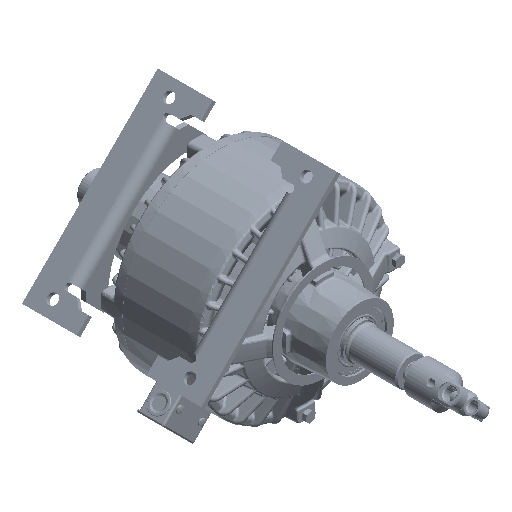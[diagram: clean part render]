
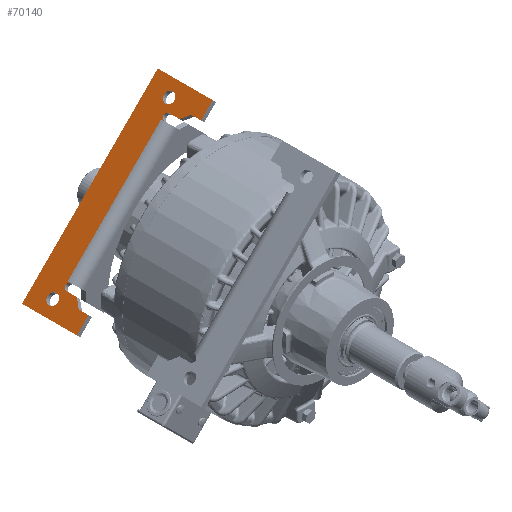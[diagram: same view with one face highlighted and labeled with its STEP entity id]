
A CAD part, isometric view. The second image highlights one B-rep face of the part: STEP entity #70140.
In plain terms, the highlighted planar face has unit normal (-0.707, 0, 0.707).
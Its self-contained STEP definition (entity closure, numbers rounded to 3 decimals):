
#2822=FACE_BOUND('',#8943,.T.);
#2823=FACE_BOUND('',#8944,.T.);
#4285=FACE_OUTER_BOUND('',#8942,.T.);
#8942=EDGE_LOOP('',(#47094,#47095,#47096,#47097,#47098,#47099,#47100,#47101,
#47102,#47103,#47104,#47105,#47106,#47107,#47108,#47109));
#8943=EDGE_LOOP('',(#47110));
#8944=EDGE_LOOP('',(#47111));
#17255=CIRCLE('',#75001,0.281);
#17257=CIRCLE('',#75004,0.18);
#17260=CIRCLE('',#75009,0.281);
#17262=CIRCLE('',#75012,0.18);
#21922=LINE('',#102694,#25059);
#21923=LINE('',#102699,#25060);
#21924=LINE('',#102701,#25061);
#21925=LINE('',#102703,#25062);
#21926=LINE('',#102705,#25063);
#21927=LINE('',#102707,#25064);
#21928=LINE('',#102708,#25065);
#21929=LINE('',#102710,#25066);
#21930=LINE('',#102711,#25067);
#21931=LINE('',#102713,#25068);
#21932=LINE('',#102715,#25069);
#21933=LINE('',#102717,#25070);
#21934=LINE('',#102719,#25071);
#21935=LINE('',#102720,#25072);
#25059=VECTOR('',#83510,39.37);
#25060=VECTOR('',#83515,39.37);
#25061=VECTOR('',#83516,39.37);
#25062=VECTOR('',#83517,39.37);
#25063=VECTOR('',#83518,39.37);
#25064=VECTOR('',#83519,39.37);
#25065=VECTOR('',#83520,39.37);
#25066=VECTOR('',#83521,39.37);
#25067=VECTOR('',#83522,39.37);
#25068=VECTOR('',#83523,39.37);
#25069=VECTOR('',#83524,39.37);
#25070=VECTOR('',#83525,39.37);
#25071=VECTOR('',#83526,39.37);
#25072=VECTOR('',#83527,39.37);
#28259=VERTEX_POINT('',#102653);
#28261=VERTEX_POINT('',#102659);
#28262=VERTEX_POINT('',#102660);
#28268=VERTEX_POINT('',#102676);
#28270=VERTEX_POINT('',#102682);
#28271=VERTEX_POINT('',#102683);
#28275=VERTEX_POINT('',#102693);
#28276=VERTEX_POINT('',#102697);
#28277=VERTEX_POINT('',#102698);
#28278=VERTEX_POINT('',#102700);
#28279=VERTEX_POINT('',#102702);
#28280=VERTEX_POINT('',#102704);
#28281=VERTEX_POINT('',#102706);
#28282=VERTEX_POINT('',#102709);
#28283=VERTEX_POINT('',#102712);
#28284=VERTEX_POINT('',#102714);
#28285=VERTEX_POINT('',#102716);
#28286=VERTEX_POINT('',#102718);
#35222=EDGE_CURVE('',#28259,#28259,#17255,.T.);
#35225=EDGE_CURVE('',#28261,#28262,#17257,.T.);
#35233=EDGE_CURVE('',#28268,#28268,#17260,.T.);
#35236=EDGE_CURVE('',#28270,#28271,#17262,.T.);
#35241=EDGE_CURVE('',#28275,#28271,#21922,.T.);
#35243=EDGE_CURVE('',#28276,#28277,#21923,.T.);
#35244=EDGE_CURVE('',#28276,#28278,#21924,.T.);
#35245=EDGE_CURVE('',#28278,#28279,#21925,.T.);
#35246=EDGE_CURVE('',#28279,#28280,#21926,.T.);
#35247=EDGE_CURVE('',#28280,#28281,#21927,.T.);
#35248=EDGE_CURVE('',#28281,#28261,#21928,.T.);
#35249=EDGE_CURVE('',#28282,#28262,#21929,.T.);
#35250=EDGE_CURVE('',#28282,#28275,#21930,.T.);
#35251=EDGE_CURVE('',#28283,#28270,#21931,.T.);
#35252=EDGE_CURVE('',#28284,#28283,#21932,.T.);
#35253=EDGE_CURVE('',#28285,#28284,#21933,.T.);
#35254=EDGE_CURVE('',#28286,#28285,#21934,.T.);
#35255=EDGE_CURVE('',#28277,#28286,#21935,.T.);
#47094=ORIENTED_EDGE('',*,*,#35243,.F.);
#47095=ORIENTED_EDGE('',*,*,#35244,.T.);
#47096=ORIENTED_EDGE('',*,*,#35245,.T.);
#47097=ORIENTED_EDGE('',*,*,#35246,.T.);
#47098=ORIENTED_EDGE('',*,*,#35247,.T.);
#47099=ORIENTED_EDGE('',*,*,#35248,.T.);
#47100=ORIENTED_EDGE('',*,*,#35225,.T.);
#47101=ORIENTED_EDGE('',*,*,#35249,.F.);
#47102=ORIENTED_EDGE('',*,*,#35250,.T.);
#47103=ORIENTED_EDGE('',*,*,#35241,.T.);
#47104=ORIENTED_EDGE('',*,*,#35236,.F.);
#47105=ORIENTED_EDGE('',*,*,#35251,.F.);
#47106=ORIENTED_EDGE('',*,*,#35252,.F.);
#47107=ORIENTED_EDGE('',*,*,#35253,.F.);
#47108=ORIENTED_EDGE('',*,*,#35254,.F.);
#47109=ORIENTED_EDGE('',*,*,#35255,.F.);
#47110=ORIENTED_EDGE('',*,*,#35222,.F.);
#47111=ORIENTED_EDGE('',*,*,#35233,.T.);
#69088=PLANE('',#75016);
#70140=ADVANCED_FACE('',(#4285,#2822,#2823),#69088,.T.);
#75001=AXIS2_PLACEMENT_3D('',#102654,#83472,#83473);
#75004=AXIS2_PLACEMENT_3D('',#102661,#83479,#83480);
#75009=AXIS2_PLACEMENT_3D('',#102677,#83494,#83495);
#75012=AXIS2_PLACEMENT_3D('',#102684,#83501,#83502);
#75016=AXIS2_PLACEMENT_3D('',#102696,#83513,#83514);
#83472=DIRECTION('center_axis',(-0.707,0.,
0.707));
#83473=DIRECTION('ref_axis',(0.,1.,0.));
#83479=DIRECTION('center_axis',(0.707,0.,
-0.707));
#83480=DIRECTION('ref_axis',(0.,-1.,0.));
#83494=DIRECTION('center_axis',(0.707,0.,
-0.707));
#83495=DIRECTION('ref_axis',(0.,1.,0.));
#83501=DIRECTION('center_axis',(-0.707,0.,
0.707));
#83502=DIRECTION('ref_axis',(0.,-1.,0.));
#83510=DIRECTION('',(0.,-1.,0.));
#83513=DIRECTION('center_axis',(-0.707,0.,
0.707));
#83514=DIRECTION('ref_axis',(0.,-1.,0.));
#83515=DIRECTION('',(0.707,0.,0.707));
#83516=DIRECTION('',(0.,-1.,0.));
#83517=DIRECTION('',(0.707,0.,0.707));
#83518=DIRECTION('',(0.,1.,0.));
#83519=DIRECTION('',(0.5,0.707,0.5));
#83520=DIRECTION('',(0.,1.,0.));
#83521=DIRECTION('',(0.,-1.,0.));
#83522=DIRECTION('',(0.707,0.,0.707));
#83523=DIRECTION('',(0.,1.,0.));
#83524=DIRECTION('',(-0.5,0.707,-0.5));
#83525=DIRECTION('',(0.,1.,0.));
#83526=DIRECTION('',(-0.707,0.,-0.707));
#83527=DIRECTION('',(0.,-1.,0.));
#102653=CARTESIAN_POINT('',(-7.071,5.219,0.706));
#102654=CARTESIAN_POINT('Origin',(-7.071,5.5,0.706));
#102659=CARTESIAN_POINT('',(-6.696,5.13,1.081));
#102660=CARTESIAN_POINT('',(-6.442,5.13,1.335));
#102661=CARTESIAN_POINT('Origin',(-6.569,5.13,1.208));
#102676=CARTESIAN_POINT('',(-0.707,5.219,7.07));
#102677=CARTESIAN_POINT('Origin',(-0.707,5.5,7.07));
#102682=CARTESIAN_POINT('',(-1.082,5.13,6.695));
#102683=CARTESIAN_POINT('',(-1.336,5.13,6.44));
#102684=CARTESIAN_POINT('Origin',(-1.209,5.13,6.568));
#102693=CARTESIAN_POINT('',(-1.336,5.31,6.44));
#102694=CARTESIAN_POINT('',(-1.336,5.13,6.44));
#102696=CARTESIAN_POINT('Origin',(-1.209,5.13,6.568));
#102697=CARTESIAN_POINT('',(-7.601,6.65,0.175));
#102698=CARTESIAN_POINT('',(-0.177,6.65,7.6));
#102699=CARTESIAN_POINT('',(-3.889,6.65,3.888));
#102700=CARTESIAN_POINT('',(-7.601,3.65,0.175));
#102701=CARTESIAN_POINT('',(-7.601,6.65,0.175));
#102702=CARTESIAN_POINT('',(-6.961,3.65,0.815));
#102703=CARTESIAN_POINT('',(-7.601,3.65,0.175));
#102704=CARTESIAN_POINT('',(-6.961,4.185,0.815));
#102705=CARTESIAN_POINT('',(-6.961,3.65,0.815));
#102706=CARTESIAN_POINT('',(-6.696,4.56,1.081));
#102707=CARTESIAN_POINT('',(-6.961,4.185,0.815));
#102708=CARTESIAN_POINT('',(-6.696,4.56,1.081));
#102709=CARTESIAN_POINT('',(-6.442,5.31,1.335));
#102710=CARTESIAN_POINT('',(-6.442,5.13,1.335));
#102711=CARTESIAN_POINT('',(-3.889,5.31,3.888));
#102712=CARTESIAN_POINT('',(-1.082,4.56,6.695));
#102713=CARTESIAN_POINT('',(-1.082,4.56,6.695));
#102714=CARTESIAN_POINT('',(-0.817,4.185,6.96));
#102715=CARTESIAN_POINT('',(-0.817,4.185,6.96));
#102716=CARTESIAN_POINT('',(-0.817,3.65,6.96));
#102717=CARTESIAN_POINT('',(-0.817,3.65,6.96));
#102718=CARTESIAN_POINT('',(-0.177,3.65,7.6));
#102719=CARTESIAN_POINT('',(-0.177,3.65,7.6));
#102720=CARTESIAN_POINT('',(-0.177,6.65,7.6));
